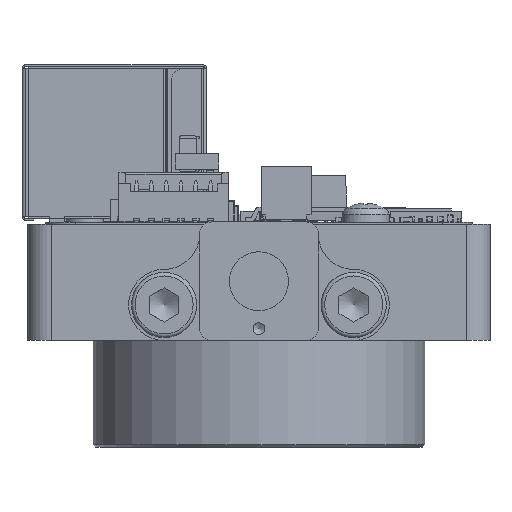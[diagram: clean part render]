
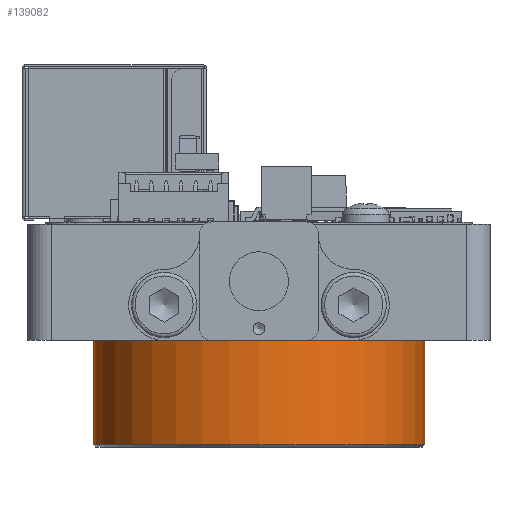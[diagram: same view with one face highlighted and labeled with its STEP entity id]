
A CAD part, front view. The second image highlights one B-rep face of the part: STEP entity #139082.
In plain terms, the highlighted cylindrical face has radius 14 mm (diameter 28 mm), a full revolution.
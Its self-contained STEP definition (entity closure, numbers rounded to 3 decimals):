
#2254=CYLINDRICAL_SURFACE('',#148192,14.);
#5562=CIRCLE('',#148185,14.);
#5566=CIRCLE('',#148193,14.);
#5567=CIRCLE('',#148194,14.);
#13016=FACE_OUTER_BOUND('',#21349,.T.);
#21349=EDGE_LOOP('',(#96080,#96081,#96082,#96083,#96084));
#32741=LINE('',#213266,#46065);
#46065=VECTOR('',#169535,14.);
#58168=VERTEX_POINT('',#213248);
#58172=VERTEX_POINT('',#213262);
#58173=VERTEX_POINT('',#213263);
#71374=EDGE_CURVE('',#58168,#58168,#5562,.T.);
#71380=EDGE_CURVE('',#58172,#58173,#5566,.T.);
#71381=EDGE_CURVE('',#58173,#58172,#5567,.T.);
#71382=EDGE_CURVE('',#58173,#58168,#32741,.T.);
#96080=ORIENTED_EDGE('',*,*,#71380,.F.);
#96081=ORIENTED_EDGE('',*,*,#71381,.F.);
#96082=ORIENTED_EDGE('',*,*,#71382,.T.);
#96083=ORIENTED_EDGE('',*,*,#71374,.F.);
#96084=ORIENTED_EDGE('',*,*,#71382,.F.);
#139082=ADVANCED_FACE('',(#13016),#2254,.T.);
#148185=AXIS2_PLACEMENT_3D('',#213249,#169513,#169514);
#148192=AXIS2_PLACEMENT_3D('',#213261,#169529,#169530);
#148193=AXIS2_PLACEMENT_3D('',#213264,#169531,#169532);
#148194=AXIS2_PLACEMENT_3D('',#213265,#169533,#169534);
#169513=DIRECTION('center_axis',(0.,0.,1.));
#169514=DIRECTION('ref_axis',(-1.,0.,0.));
#169529=DIRECTION('center_axis',(0.,0.,-1.));
#169530=DIRECTION('ref_axis',(-1.,0.,0.));
#169531=DIRECTION('center_axis',(0.,0.,-1.));
#169532=DIRECTION('ref_axis',(1.,0.,0.));
#169533=DIRECTION('center_axis',(0.,0.,-1.));
#169534=DIRECTION('ref_axis',(1.,0.,0.));
#169535=DIRECTION('',(0.,0.,1.));
#213248=CARTESIAN_POINT('',(14.,0.,0.));
#213249=CARTESIAN_POINT('Origin',(0.,0.,0.));
#213261=CARTESIAN_POINT('Origin',(0.,0.,0.));
#213262=CARTESIAN_POINT('',(-14.,0.,-8.8));
#213263=CARTESIAN_POINT('',(14.,0.,-8.8));
#213264=CARTESIAN_POINT('Origin',(0.,0.,-8.8));
#213265=CARTESIAN_POINT('Origin',(0.,0.,-8.8));
#213266=CARTESIAN_POINT('',(14.,0.,0.));
